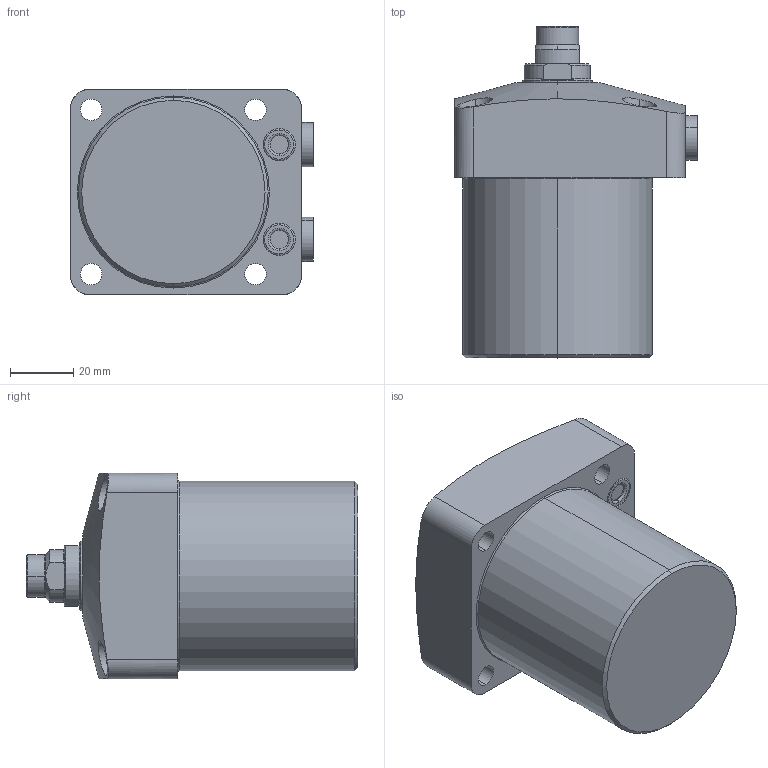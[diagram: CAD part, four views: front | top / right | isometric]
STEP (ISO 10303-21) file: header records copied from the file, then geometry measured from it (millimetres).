
FILE_DESCRIPTION(/* description */ (''),/* implementation_level */ '2;1');
FILE_NAME(/* name */ 'FSC16-M.stp',/* time_stamp */ '2025-03-10T14:16:24+08:00',/* author */ (''),/* organization */ (''),/* preprocessor_version */ 'ST-DEVELOPER v16.7',/* originating_system */ 'SIEMENS PLM Software NX 12.0',/* authorisation */ '');
FILE_SCHEMA (('AUTOMOTIVE_DESIGN { 1 0 10303 214 3 1 1 1 }'));
Length unit declared in the file: millimetre
Products named in the file (9): XLC-M12SP_pad; XLC-M12SP_pin; XLC-M12SP_contactbolt; XLC-M12_o-ring; FSC016-02; FSC016-04; FSC016-01; XLC-M12_XLC-M12SP; FSC16_stp
Assembly tree (9 placements, depth 3):
  FSC16_stp
    FSC016-01
    FSC016-04  x2
    FSC016-02
    XLC-M12_XLC-M12SP
      XLC-M12_o-ring
      XLC-M12SP_contactbolt
      XLC-M12SP_pin
      XLC-M12SP_pad
Bounding box: 76.8 x 105 x 65 mm (x, y, z)
Volume: 283194.9 mm3; surface area: 37372.7 mm2
Topology: 8 solids, 10 shells, 250 faces, 552 edges, 341 vertices
Faces by surface type: cylinder 97, plane 64, cone 42, torus 41, sphere 6
Entity records: 7092 total; most frequent: CARTESIAN_POINT 1596, DIRECTION 1222, ORIENTED_EDGE 1020, AXIS2_PLACEMENT_3D 527, EDGE_CURVE 510, VERTEX_POINT 315, CIRCLE 287, EDGE_LOOP 271
